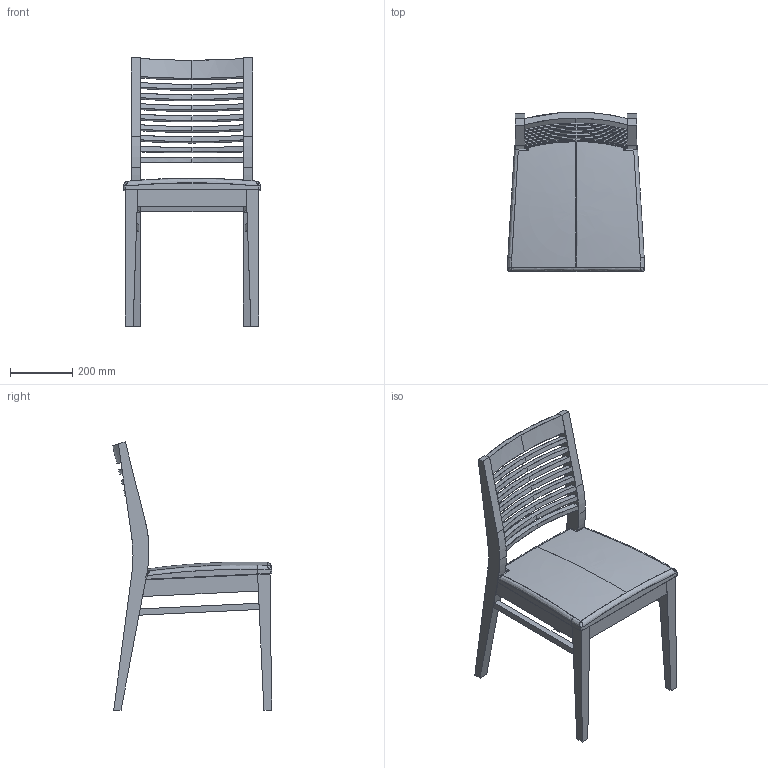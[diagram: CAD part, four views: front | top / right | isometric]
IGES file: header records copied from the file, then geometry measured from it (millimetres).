
Start section: SolidWorks IGES file using analytic representation for surfaces
Global section: file name: C:\Users\Adao\Documents\Trab Adao\Desenho técnico PRODUÇÃO\J M S\MARTY\MARTY (3D)\Cadeira MARTY M-440.IGS; native system: SolidWorks 2012; preprocessor: SolidWorks 2012; author: Adao; date: 121219.154326; units: millimetre
Bounding box: 439 x 513.03 x 863 mm (x, y, z)
Surface area: 1314377.4 mm2 (no closed solid volume)
Topology: 0 solids, 0 shells, 210 faces, 1558 edges, 1553 vertices
Faces by surface type: bspline 168, revolution 42
